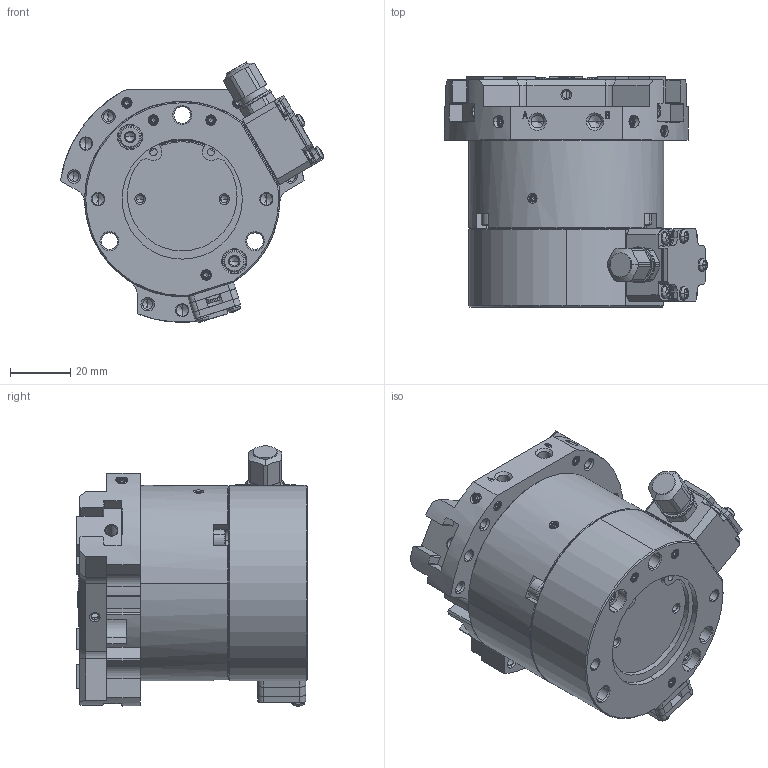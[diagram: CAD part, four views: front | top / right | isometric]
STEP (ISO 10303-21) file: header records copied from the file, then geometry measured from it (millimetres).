
FILE_DESCRIPTION (( 'STEP AP214' ), '1' );
FILE_NAME ('NTS307S-OC.STEP', '2026-03-27T01:35:14', ( '' ), ( '' ), 'SwSTEP 2.0', 'SolidWorks 2022', '' );
FILE_SCHEMA (( 'AUTOMOTIVE_DESIGN' ));
Length unit declared in the file: millimetre
Products named in the file (27): SENSOR COVER^HP-NTS307S; SCREW4^HP-NTS307S; BOLT1^HP-NTS307S; SHEET GASKET B^HP-NTS307S; REAR BODY^HP-NTS307S; SET SCREW3^HP-NTS307S; SILENCER^HP-NTS307S; MASTER JAW^HP-NTS307S; NTS307S-OC; SILENCER COVER A^HP-NTS307S; WASHER^HP-NTS307S; SCREW3^HP-NTS307S; CAPCON^HP-NTS307S; SENSOR CASE^HP-NTS307S; CONNECOR COVER^HP-NTS307S; SCREW2^HP-NTS307S; RETAINING RING^HP-NTS307S; CONNECTOR^HP-NTS307S; SHEET GASKET A^HP-NTS307S; SILENCER COVER C^HP-NTS307S; SCREW1^HP-NTS307S; BODY^HP-NTS307S_NTS307S(刻印); SILENCER COVER B^HP-NTS307S; SET SCREW2^HP-NTS307S; BOLT2^HP-NTS307S; COVER^HP-NTS307S; SET SCREW1^HP-NTS307S
Assembly tree (46 placements, depth 2):
  NTS307S-OC
    BODY^HP-NTS307S_NTS307S(刻印)
    MASTER JAW^HP-NTS307S  x3
    COVER^HP-NTS307S
    REAR BODY^HP-NTS307S
    SENSOR CASE^HP-NTS307S
    SENSOR COVER^HP-NTS307S
    CONNECTOR^HP-NTS307S
    CONNECOR COVER^HP-NTS307S
    SHEET GASKET A^HP-NTS307S
    SILENCER COVER A^HP-NTS307S
    SILENCER COVER B^HP-NTS307S
    SILENCER COVER C^HP-NTS307S
    SHEET GASKET B^HP-NTS307S
    BOLT1^HP-NTS307S  x2
    BOLT2^HP-NTS307S  x3
    SCREW1^HP-NTS307S  x2
    SCREW2^HP-NTS307S  x4
    SCREW3^HP-NTS307S  x3
    SET SCREW1^HP-NTS307S  x6
    SET SCREW2^HP-NTS307S
    SILENCER^HP-NTS307S
    RETAINING RING^HP-NTS307S
    CAPCON^HP-NTS307S
    WASHER^HP-NTS307S
    SCREW4^HP-NTS307S  x3
    SET SCREW3^HP-NTS307S  x3
Bounding box: 87.61 x 76.7 x 86.67 mm (x, y, z)
Volume: 248055.2 mm3; surface area: 79134.5 mm2
Topology: 46 solids, 46 shells, 2906 faces, 7658 edges, 4875 vertices
Faces by surface type: plane 1733, cylinder 492, cone 486, bspline 193, torus 2
Entity records: 83783 total; most frequent: CARTESIAN_POINT 22280, ORIENTED_EDGE 12732, DIRECTION 11466, EDGE_CURVE 6366, VECTOR 4738, LINE 4738, VERTEX_POINT 4124, AXIS2_PLACEMENT_3D 3364
